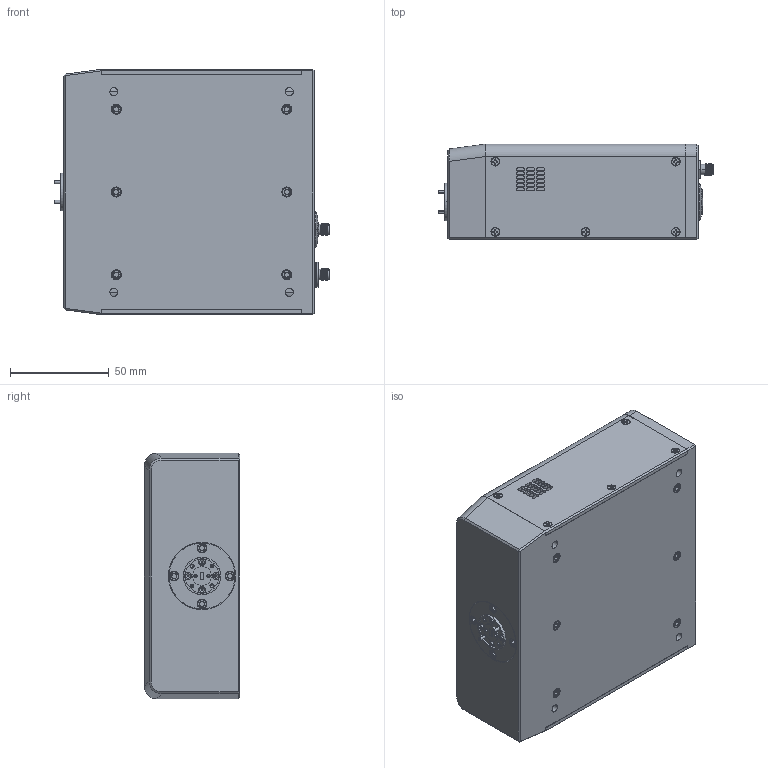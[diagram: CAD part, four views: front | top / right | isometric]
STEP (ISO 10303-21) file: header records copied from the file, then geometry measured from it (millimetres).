
FILE_DESCRIPTION (( 'STEP AP214' ), '1' );
FILE_NAME ('DMTC-15-101-A1 DF no feet.STEP', '2024-05-07T20:36:10', ( '' ), ( '' ), 'SwSTEP 2.0', 'SolidWorks 2021', '' );
FILE_SCHEMA (( 'AUTOMOTIVE_DESIGN' ));
Length unit declared in the file: inch
Products named in the file (1): DMTC-15-101-A1 DF no feet
Bounding box: 139.21 x 48.26 x 124.32 mm (x, y, z)
Volume: 750710.9 mm3; surface area: 86843.3 mm2
Topology: 5 solids, 17 shells, 1669 faces, 4325 edges, 2761 vertices
Faces by surface type: plane 770, cylinder 573, cone 302, bspline 16, sphere 6, torus 2
Entity records: 60155 total; most frequent: CARTESIAN_POINT 19842, ORIENTED_EDGE 8602, DIRECTION 8187, EDGE_CURVE 4301, AXIS2_PLACEMENT_3D 2968, VERTEX_POINT 2761, LINE 2251, VECTOR 2251
